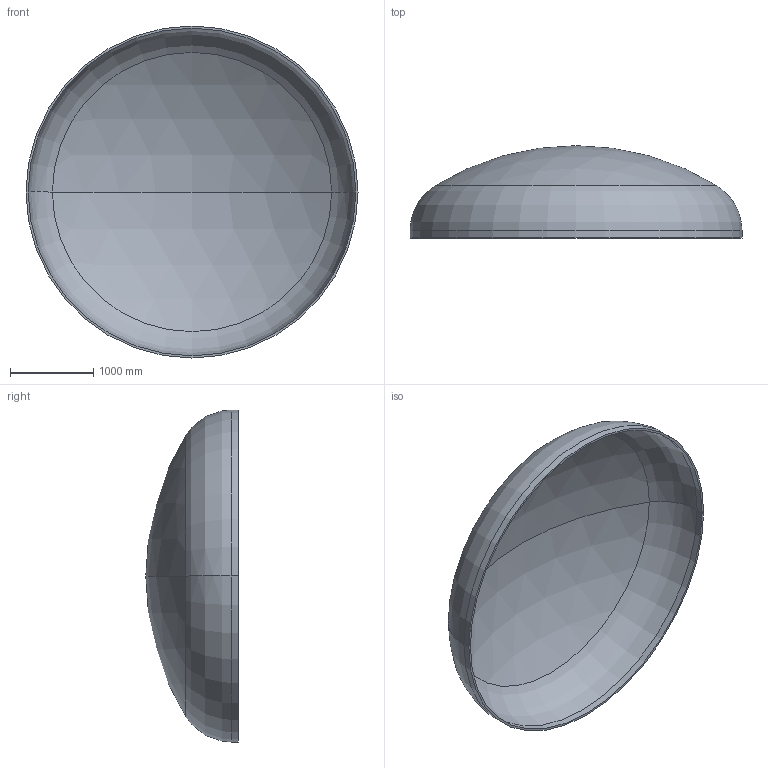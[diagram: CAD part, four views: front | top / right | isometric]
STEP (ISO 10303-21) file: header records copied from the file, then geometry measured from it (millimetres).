
FILE_DESCRIPTION (( 'STEP AP203' ), '1' );
FILE_NAME ('DIN 28013 Korbbogenform_-_Boden DIN 28013 - 4000 x 85 - I - s=26.step', '2016-07-01T22:12:10', ( '' ), ( '' ), 'SwSTEP 2.0', 'SolidWorks 2013', '' );
FILE_SCHEMA (( 'CONFIG_CONTROL_DESIGN' ));
Length unit declared in the file: millimetre
Products named in the file (1): DIN 28013 Korbbogenform_-_Boden DIN 28013 - 4000 x 85 - I - s=26
Bounding box: 4000 x 1112.06 x 4000 mm (x, y, z)
Volume: 476094831.2 mm3; surface area: 36948682.9 mm2
Topology: 1 solids, 1 shells, 13 faces, 24 edges, 14 vertices
Faces by surface type: torus 4, cylinder 4, sphere 4, plane 1
Entity records: 407 total; most frequent: DIRECTION 72, CARTESIAN_POINT 52, ORIENTED_EDGE 48, AXIS2_PLACEMENT_3D 34, EDGE_CURVE 24, CIRCLE 20, VERTEX_POINT 14, EDGE_LOOP 14
